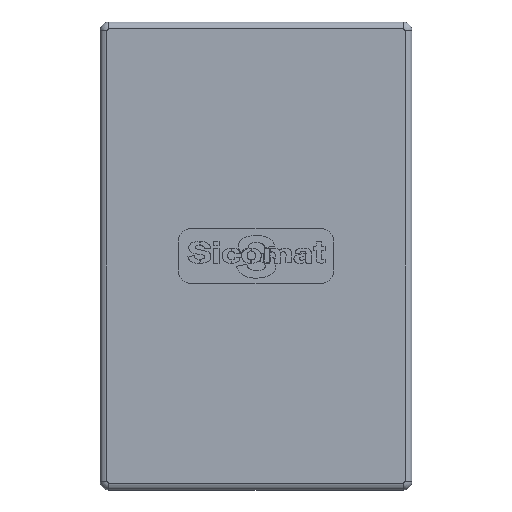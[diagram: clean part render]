
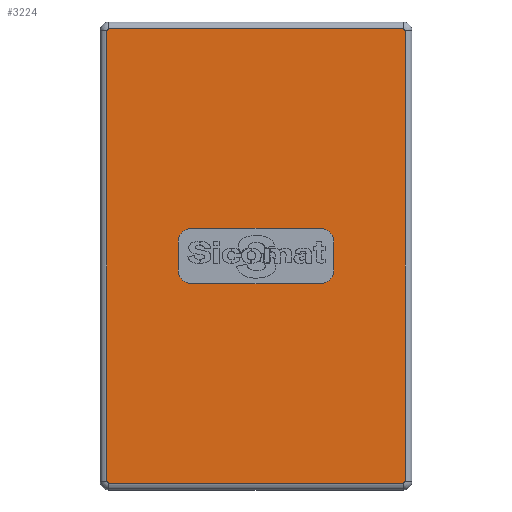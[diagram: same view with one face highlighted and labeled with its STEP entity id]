
A CAD part, top view. The second image highlights one B-rep face of the part: STEP entity #3224.
In plain terms, the highlighted planar face has unit normal (0, 0, 1).
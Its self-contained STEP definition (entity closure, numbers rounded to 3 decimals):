
#9 = ORIENTED_EDGE ( 'NONE', *, *, #1919, .F. ) ;
#35 = ORIENTED_EDGE ( 'NONE', *, *, #6102, .T. ) ;
#54 = ORIENTED_EDGE ( 'NONE', *, *, #6085, .T. ) ;
#64 = ORIENTED_EDGE ( 'NONE', *, *, #6104, .T. ) ;
#66 = ORIENTED_EDGE ( 'NONE', *, *, #1923, .F. ) ;
#71 = ORIENTED_EDGE ( 'NONE', *, *, #6107, .T. ) ;
#91 = ORIENTED_EDGE ( 'NONE', *, *, #6060, .T. ) ;
#97 = ORIENTED_EDGE ( 'NONE', *, *, #6017, .T. ) ;
#99 = ORIENTED_EDGE ( 'NONE', *, *, #6075, .T. ) ;
#165 = ORIENTED_EDGE ( 'NONE', *, *, #6101, .T. ) ;
#166 = ORIENTED_EDGE ( 'NONE', *, *, #1927, .T. ) ;
#259 = ORIENTED_EDGE ( 'NONE', *, *, #1925, .F. ) ;
#295 = ORIENTED_EDGE ( 'NONE', *, *, #1920, .T. ) ;
#336 = ORIENTED_EDGE ( 'NONE', *, *, #6003, .T. ) ;
#495 = ORIENTED_EDGE ( 'NONE', *, *, #1913, .F. ) ;
#604 = ORIENTED_EDGE ( 'NONE', *, *, #6054, .T. ) ;
#648 = VERTEX_POINT ( 'NONE', #4031 ) ;
#655 = VERTEX_POINT ( 'NONE', #4288 ) ;
#667 = VERTEX_POINT ( 'NONE', #4282 ) ;
#703 = VERTEX_POINT ( 'NONE', #4052 ) ;
#718 = VERTEX_POINT ( 'NONE', #3826 ) ;
#736 = VERTEX_POINT ( 'NONE', #3752 ) ;
#758 = LINE ( 'NONE', #3997, #1686 ) ;
#827 = VERTEX_POINT ( 'NONE', #3714 ) ;
#937 = VERTEX_POINT ( 'NONE', #4015 ) ;
#941 = VERTEX_POINT ( 'NONE', #3753 ) ;
#945 = VERTEX_POINT ( 'NONE', #3765 ) ;
#1089 = VERTEX_POINT ( 'NONE', #3834 ) ;
#1109 = VERTEX_POINT ( 'NONE', #3727 ) ;
#1116 = VERTEX_POINT ( 'NONE', #4427 ) ;
#1138 = VERTEX_POINT ( 'NONE', #3930 ) ;
#1179 = VERTEX_POINT ( 'NONE', #4068 ) ;
#1181 = VERTEX_POINT ( 'NONE', #3957 ) ;
#1518 = EDGE_LOOP ( 'NONE', ( #295, #35, #71, #99, #64, #165, #166, #604 ) ) ;
#1522 = EDGE_LOOP ( 'NONE', ( #9, #54, #495, #91, #66, #336, #259, #97 ) ) ;
#1583 = VECTOR ( 'NONE', #3999, 1000. ) ;
#1595 = LINE ( 'NONE', #4474, #1691 ) ;
#1664 = LINE ( 'NONE', #4409, #1729 ) ;
#1686 = VECTOR ( 'NONE', #3978, 1000. ) ;
#1691 = VECTOR ( 'NONE', #3965, 1000. ) ;
#1698 = VECTOR ( 'NONE', #3981, 1000. ) ;
#1729 = VECTOR ( 'NONE', #3964, 1000. ) ;
#1732 = LINE ( 'NONE', #4000, #1767 ) ;
#1767 = VECTOR ( 'NONE', #3984, 1000. ) ;
#1788 = LINE ( 'NONE', #3991, #1583 ) ;
#1793 = LINE ( 'NONE', #4424, #1698 ) ;
#1913 = EDGE_CURVE ( 'NONE', #1181, #1138, #1595, .T. ) ;
#1919 = EDGE_CURVE ( 'NONE', #1179, #648, #758, .T. ) ;
#1920 = EDGE_CURVE ( 'NONE', #667, #655, #1732, .T. ) ;
#1923 = EDGE_CURVE ( 'NONE', #941, #945, #1664, .T. ) ;
#1925 = EDGE_CURVE ( 'NONE', #736, #703, #1793, .T. ) ;
#1927 = EDGE_CURVE ( 'NONE', #718, #1116, #1788, .T. ) ;
#2602 = CARTESIAN_POINT ( 'NONE',  ( 0., 0., 2.5 ) ) ;
#2610 = PLANE ( 'NONE',  #3408 ) ;
#2612 = DIRECTION ( 'NONE',  ( 0., 0., 1. ) ) ;
#2613 = DIRECTION ( 'NONE',  ( 1., 0., 0. ) ) ;
#3224 = ADVANCED_FACE ( 'NONE', ( #4677, #4638 ), #2610, .T. ) ;
#3408 = AXIS2_PLACEMENT_3D ( 'NONE', #2602, #2612, #2613 ) ;
#3449 = AXIS2_PLACEMENT_3D ( 'NONE', #5086, #5087, #5088 ) ;
#3454 = AXIS2_PLACEMENT_3D ( 'NONE', #5948, #5949, #5950 ) ;
#3467 = AXIS2_PLACEMENT_3D ( 'NONE', #5992, #5993, #5994 ) ;
#3471 = AXIS2_PLACEMENT_3D ( 'NONE', #5126, #5127, #5128 ) ;
#3474 = AXIS2_PLACEMENT_3D ( 'NONE', #5121, #5122, #5123 ) ;
#3476 = AXIS2_PLACEMENT_3D ( 'NONE', #5929, #5930, #5931 ) ;
#3628 = AXIS2_PLACEMENT_3D ( 'NONE', #5826, #5827, #5828 ) ;
#3631 = AXIS2_PLACEMENT_3D ( 'NONE', #5645, #5644, #5643 ) ;
#3714 = CARTESIAN_POINT ( 'NONE',  ( 43., -65., 2.5 ) ) ;
#3727 = CARTESIAN_POINT ( 'NONE',  ( 43., 65., 2.5 ) ) ;
#3752 = CARTESIAN_POINT ( 'NONE',  ( -18.5, -8., 2.5 ) ) ;
#3753 = CARTESIAN_POINT ( 'NONE',  ( 22.5, -4., 2.5 ) ) ;
#3765 = CARTESIAN_POINT ( 'NONE',  ( 22.5, 4., 2.5 ) ) ;
#3826 = CARTESIAN_POINT ( 'NONE',  ( 42.5, 65.5, 2.5 ) ) ;
#3834 = CARTESIAN_POINT ( 'NONE',  ( 42.5, -65.5, 2.5 ) ) ;
#3930 = CARTESIAN_POINT ( 'NONE',  ( -18.5, 8., 2.5 ) ) ;
#3957 = CARTESIAN_POINT ( 'NONE',  ( 18.5, 8., 2.5 ) ) ;
#3964 = DIRECTION ( 'NONE',  ( 0., 1., 0. ) ) ;
#3965 = DIRECTION ( 'NONE',  ( -1., 0., 0. ) ) ;
#3978 = DIRECTION ( 'NONE',  ( 0., -1., 0. ) ) ;
#3981 = DIRECTION ( 'NONE',  ( 1., 0., 0. ) ) ;
#3984 = DIRECTION ( 'NONE',  ( 0., -1., 0. ) ) ;
#3991 = CARTESIAN_POINT ( 'NONE',  ( -42.5, 65.5, 2.5 ) ) ;
#3997 = CARTESIAN_POINT ( 'NONE',  ( -22.5, -8., 2.5 ) ) ;
#3999 = DIRECTION ( 'NONE',  ( -1., 0., 0. ) ) ;
#4000 = CARTESIAN_POINT ( 'NONE',  ( -43., -65., 2.5 ) ) ;
#4015 = CARTESIAN_POINT ( 'NONE',  ( -42.5, -65.5, 2.5 ) ) ;
#4031 = CARTESIAN_POINT ( 'NONE',  ( -22.5, -4., 2.5 ) ) ;
#4052 = CARTESIAN_POINT ( 'NONE',  ( 18.5, -8., 2.5 ) ) ;
#4068 = CARTESIAN_POINT ( 'NONE',  ( -22.5, 4., 2.5 ) ) ;
#4282 = CARTESIAN_POINT ( 'NONE',  ( -43., 65., 2.5 ) ) ;
#4288 = CARTESIAN_POINT ( 'NONE',  ( -43., -65., 2.5 ) ) ;
#4409 = CARTESIAN_POINT ( 'NONE',  ( 22.5, -8., 2.5 ) ) ;
#4424 = CARTESIAN_POINT ( 'NONE',  ( 22.5, -8., 2.5 ) ) ;
#4427 = CARTESIAN_POINT ( 'NONE',  ( -42.5, 65.5, 2.5 ) ) ;
#4474 = CARTESIAN_POINT ( 'NONE',  ( 22.5, 8., 2.5 ) ) ;
#4638 = FACE_OUTER_BOUND ( 'NONE', #1518, .T. ) ;
#4677 = FACE_BOUND ( 'NONE', #1522, .T. ) ;
#5086 = CARTESIAN_POINT ( 'NONE',  ( -18.5, 4., 2.5 ) ) ;
#5087 = DIRECTION ( 'NONE',  ( 0., 0., -1. ) ) ;
#5088 = DIRECTION ( 'NONE',  ( 1., 0., 0. ) ) ;
#5121 = CARTESIAN_POINT ( 'NONE',  ( 42.5, 65., 2.5 ) ) ;
#5122 = DIRECTION ( 'NONE',  ( 0., 0., 1. ) ) ;
#5123 = DIRECTION ( 'NONE',  ( 1., 0., 0. ) ) ;
#5126 = CARTESIAN_POINT ( 'NONE',  ( -42.5, -65., 2.5 ) ) ;
#5127 = DIRECTION ( 'NONE',  ( 0., 0., 1. ) ) ;
#5128 = DIRECTION ( 'NONE',  ( 1., 0., 0. ) ) ;
#5129 = CARTESIAN_POINT ( 'NONE',  ( 43., 65., 2.5 ) ) ;
#5130 = DIRECTION ( 'NONE',  ( 0., 1., 0. ) ) ;
#5135 = CARTESIAN_POINT ( 'NONE',  ( 42.5, -65.5, 2.5 ) ) ;
#5136 = DIRECTION ( 'NONE',  ( 1., 0., 0. ) ) ;
#5643 = DIRECTION ( 'NONE',  ( 1., 0., 0. ) ) ;
#5644 = DIRECTION ( 'NONE',  ( 0., 0., -1. ) ) ;
#5645 = CARTESIAN_POINT ( 'NONE',  ( 18.5, -4., 2.5 ) ) ;
#5826 = CARTESIAN_POINT ( 'NONE',  ( -18.5, -4., 2.5 ) ) ;
#5827 = DIRECTION ( 'NONE',  ( 0., 0., -1. ) ) ;
#5828 = DIRECTION ( 'NONE',  ( 1., 0., 0. ) ) ;
#5929 = CARTESIAN_POINT ( 'NONE',  ( -42.5, 65., 2.5 ) ) ;
#5930 = DIRECTION ( 'NONE',  ( 0., 0., 1. ) ) ;
#5931 = DIRECTION ( 'NONE',  ( 1., 0., 0. ) ) ;
#5948 = CARTESIAN_POINT ( 'NONE',  ( 18.5, 4., 2.5 ) ) ;
#5949 = DIRECTION ( 'NONE',  ( 0., 0., -1. ) ) ;
#5950 = DIRECTION ( 'NONE',  ( 1., 0., 0. ) ) ;
#5992 = CARTESIAN_POINT ( 'NONE',  ( 42.5, -65., 2.5 ) ) ;
#5993 = DIRECTION ( 'NONE',  ( 0., 0., 1. ) ) ;
#5994 = DIRECTION ( 'NONE',  ( 1., 0., 0. ) ) ;
#6003 = EDGE_CURVE ( 'NONE', #941, #703, #6174, .T. ) ;
#6017 = EDGE_CURVE ( 'NONE', #736, #648, #6173, .T. ) ;
#6054 = EDGE_CURVE ( 'NONE', #1116, #667, #6122, .T. ) ;
#6060 = EDGE_CURVE ( 'NONE', #1181, #945, #6204, .T. ) ;
#6075 = EDGE_CURVE ( 'NONE', #1089, #827, #6311, .T. ) ;
#6085 = EDGE_CURVE ( 'NONE', #1179, #1138, #6289, .T. ) ;
#6101 = EDGE_CURVE ( 'NONE', #1109, #718, #6261, .T. ) ;
#6102 = EDGE_CURVE ( 'NONE', #655, #937, #6150, .T. ) ;
#6104 = EDGE_CURVE ( 'NONE', #827, #1109, #6270, .T. ) ;
#6107 = EDGE_CURVE ( 'NONE', #937, #1089, #6130, .T. ) ;
#6122 = CIRCLE ( 'NONE', #3476, 0.5 ) ;
#6130 = LINE ( 'NONE', #5135, #6268 ) ;
#6150 = CIRCLE ( 'NONE', #3471, 0.5 ) ;
#6173 = CIRCLE ( 'NONE', #3628, 4. ) ;
#6174 = CIRCLE ( 'NONE', #3631, 4. ) ;
#6204 = CIRCLE ( 'NONE', #3454, 4. ) ;
#6235 = VECTOR ( 'NONE', #5130, 1000. ) ;
#6261 = CIRCLE ( 'NONE', #3474, 0.5 ) ;
#6268 = VECTOR ( 'NONE', #5136, 1000. ) ;
#6270 = LINE ( 'NONE', #5129, #6235 ) ;
#6289 = CIRCLE ( 'NONE', #3449, 4. ) ;
#6311 = CIRCLE ( 'NONE', #3467, 0.5 ) ;
